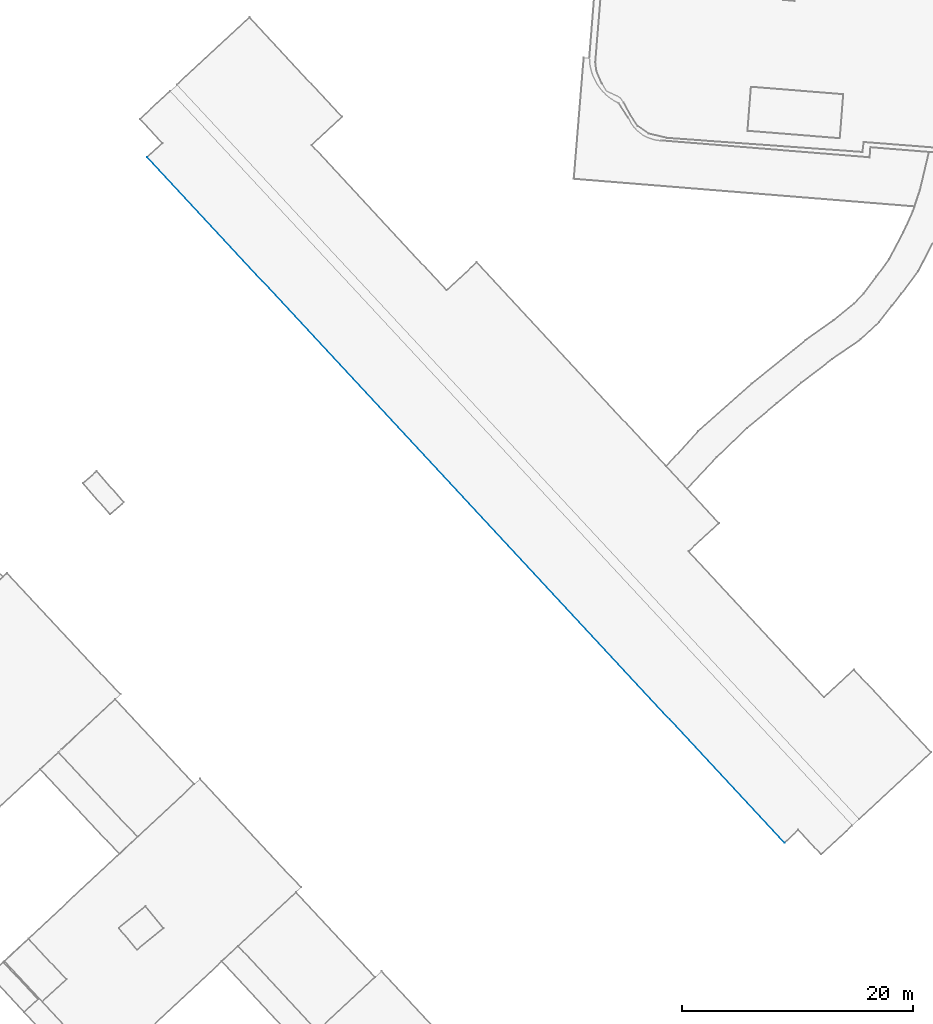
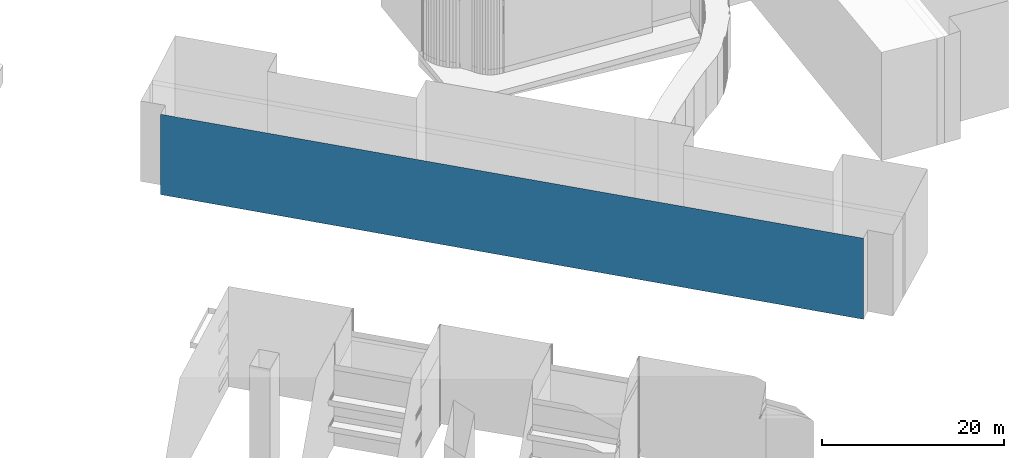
# Not in any storey, part 31 of 136: 1 wall.
"""IFC2X3 building model written with IfcOpenShell, lengths in metres."""

from ifc_helpers import new_model, entity, si_unit, converted_unit, origin, place, context, subcontext, project, spatial, face_set, surface_model, element, save


model = new_model("IFC2X3")

# Units and contexts
model_context = context("Model", 3, precision=1e-05, world=origin())
body_context = subcontext(model_context, "Body", "Model", "MODEL_VIEW")
ifc_project = project(units=[converted_unit("PLANEANGLEUNIT", "DEGREE", entity("IfcRatioMeasure", 0.0174532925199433), si_unit("PLANEANGLEUNIT", "RADIAN"), dimensions=[0, 0, 0, 0, 0, 0, 0]), si_unit("AREAUNIT", "SQUARE_METRE"), si_unit("LENGTHUNIT", "METRE")], contexts=[model_context])

# Site, building
site_placement = place(None, origin())
site = spatial("IfcSite", under=ifc_project, at=site_placement, Name="_site", CompositionType="ELEMENT")
building_placement = place(site_placement, origin())
building = spatial("IfcBuilding", under=site, at=building_placement, Name="_building", CompositionType="ELEMENT")

# Wall
wall_placement = place(building_placement, origin())
element("IfcWall", 1, at=wall_placement, inside=building, Name="Wall", context=body_context, shape_type="SurfaceModel", body=[
    surface_model("IfcFaceBasedSurfaceModel", [(192.04, -8.32, 48.81), (136.9, 51.021, 48.81), (136.9, 51.021, 38.0), (192.04, -8.32, 37.905)], [face_set([[[0, 1, 2, 3]]])]),
])

save(model, "model.ifc")
